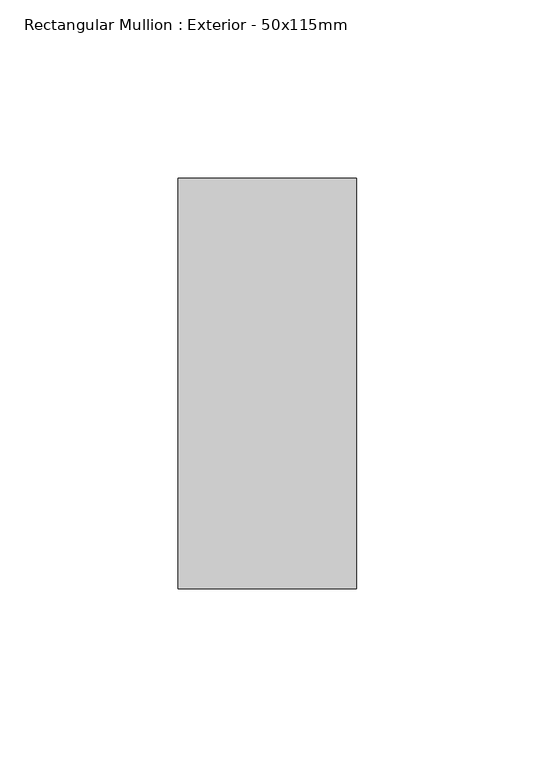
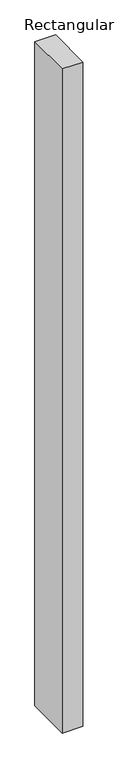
"""IFC4 building model written with IfcOpenShell, lengths in millimetres: member geometry, Rectangular Mullion : Exterior - 50x115mm."""

from ifc_helpers import new_model, si_unit, frame, origin, place, context, project, spatial, polyline, outline, extrude, source, transform, mapped, element, save


def rectangular_mullion_exterior_50x115mm_66d0e140(model_context):
    return source(origin(), model_context, "Body", "SweptSolid", [
        extrude(outline(polyline([(0.0, 115.0), (0.0, 0.0), (-50.0, 0.0), (-50.0, 115.0), (0.0, 115.0)])), frame((0.0, 0.0, -1705.0), z_axis=(0.0, 0.0, 1.0), x_axis=(1.0, 0.0, 0.0)), (0.0, 0.0, 1.0), 1705.0),
    ])


if __name__ == "__main__":
    model = new_model("IFC4")
    model_context = context("Model", 3, world=origin())
    ifc_project = project(units=[si_unit("LENGTHUNIT", "METRE", prefix="MILLI")], contexts=[model_context])
    site = spatial("IfcSite", under=ifc_project)
    building = spatial("IfcBuilding", under=site)
    placement = place(None, origin())
    rectangular_mullion_exterior_50x115mm_shape = rectangular_mullion_exterior_50x115mm_66d0e140(model_context)
    element("IfcMember", 1, ObjectType="Rectangular Mullion : Exterior - 50x115mm", at=placement, inside=building, context=model_context, shape_type="MappedRepresentation", body=[
        mapped(rectangular_mullion_exterior_50x115mm_shape, transform((0.0, 0.0, 0.0), x_axis=(1.0, 0.0, 0.0), y_axis=(0.0, 1.0, 0.0), z_axis=(0.0, 0.0, 1.0))),
    ])
    save(model, "model.ifc")
